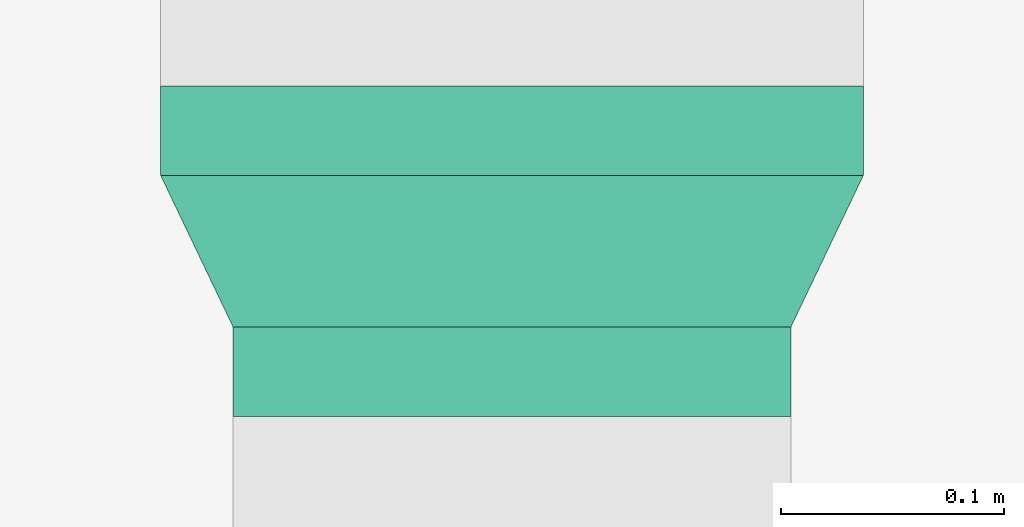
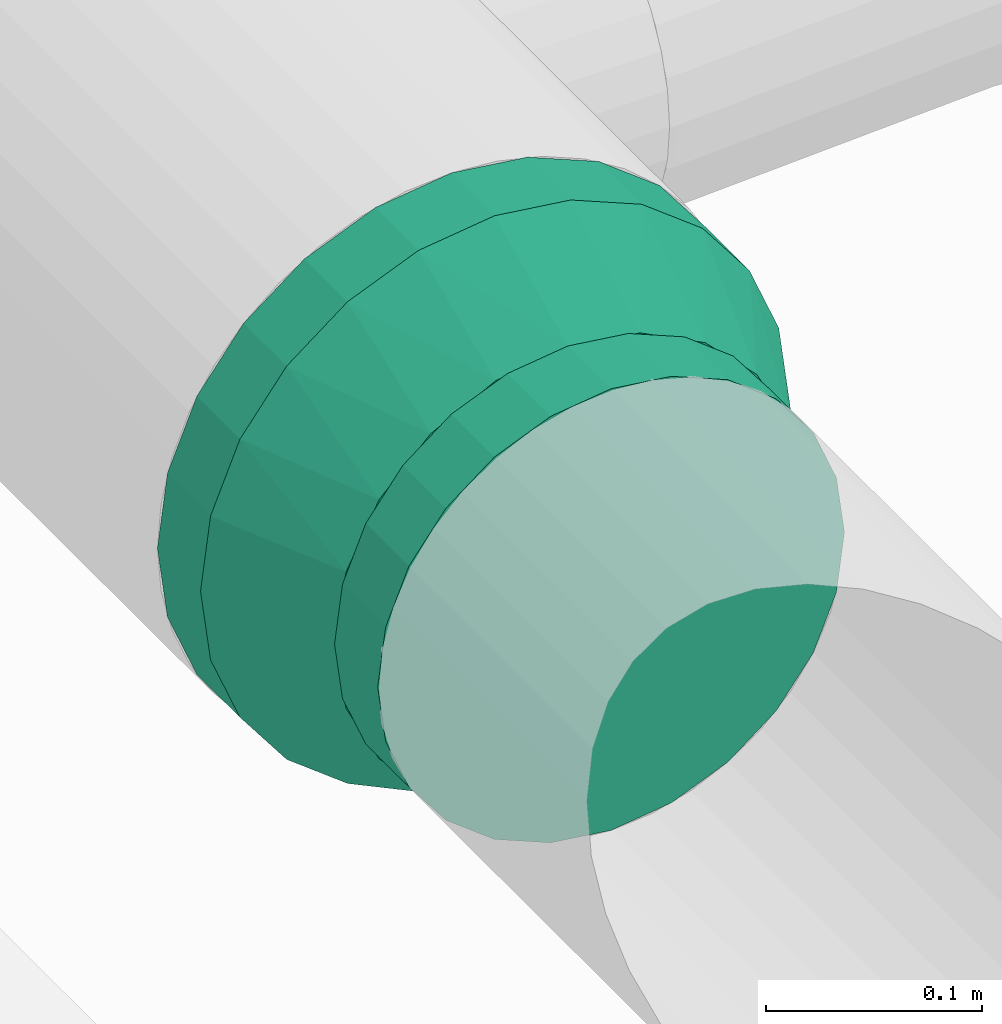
# One storey, part 19 of 31: 1 flow fitting.
"""IFC2X3 building model written with IfcOpenShell, lengths in millimetres."""

from ifc_helpers import new_model, entity, si_unit, converted_unit, derived_unit, direction, frame, origin, place, context, subcontext, project, spatial, faceted_brep, source, transform, mapped, material, material_list, type_object, type_shapes, element, save


model = new_model("IFC2X3")

# Units and contexts
model_context = context("Model", 3, precision=0.01, world=origin(), true_north=direction((6.123031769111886e-17, 1.0)))
body_context = subcontext(model_context, "Body", "Model", "MODEL_VIEW")
ifc_project = project(units=[si_unit("LENGTHUNIT", "METRE", prefix="MILLI"), si_unit("AREAUNIT", "SQUARE_METRE"), si_unit("VOLUMEUNIT", "CUBIC_METRE"), converted_unit("PLANEANGLEUNIT", "DEGREE", entity("IfcRatioMeasure", 0.017453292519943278), si_unit("PLANEANGLEUNIT", "RADIAN"), dimensions=[0, 0, 0, 0, 0, 0, 0]), si_unit("MASSUNIT", "GRAM", prefix="KILO"), derived_unit("MASSDENSITYUNIT", [(si_unit("MASSUNIT", "GRAM", prefix="KILO"), 1), (si_unit("LENGTHUNIT", "METRE"), -3)]), derived_unit("MOMENTOFINERTIAUNIT", [(si_unit("LENGTHUNIT", "METRE"), 4)]), si_unit("TIMEUNIT", "SECOND"), si_unit("FREQUENCYUNIT", "HERTZ"), si_unit("THERMODYNAMICTEMPERATUREUNIT", "DEGREE_CELSIUS"), derived_unit("THERMALTRANSMITTANCEUNIT", [(si_unit("MASSUNIT", "GRAM", prefix="KILO"), 1), (si_unit("THERMODYNAMICTEMPERATUREUNIT", "KELVIN"), -1), (si_unit("TIMEUNIT", "SECOND"), -3)]), derived_unit("VOLUMETRICFLOWRATEUNIT", [(si_unit("LENGTHUNIT", "METRE"), 3), (si_unit("TIMEUNIT", "SECOND"), -1)]), derived_unit("MASSFLOWRATEUNIT", [(si_unit("MASSUNIT", "GRAM", prefix="KILO"), 1), (si_unit("TIMEUNIT", "SECOND"), -1)]), derived_unit("ROTATIONALFREQUENCYUNIT", [(si_unit("TIMEUNIT", "SECOND"), -1)]), si_unit("ELECTRICCURRENTUNIT", "AMPERE"), si_unit("ELECTRICVOLTAGEUNIT", "VOLT"), si_unit("POWERUNIT", "WATT"), si_unit("FORCEUNIT", "NEWTON", prefix="KILO"), si_unit("ILLUMINANCEUNIT", "LUX"), si_unit("LUMINOUSFLUXUNIT", "LUMEN"), si_unit("LUMINOUSINTENSITYUNIT", "CANDELA"), derived_unit("USERDEFINED", [(si_unit("MASSUNIT", "GRAM", prefix="KILO"), -1), (si_unit("LENGTHUNIT", "METRE"), -2), (si_unit("TIMEUNIT", "SECOND"), 3), (si_unit("LUMINOUSFLUXUNIT", "LUMEN"), 1)]), derived_unit("SOUNDPOWERUNIT", [(si_unit("MASSUNIT", "GRAM", prefix="KILO"), 1), (si_unit("LENGTHUNIT", "METRE"), 2), (si_unit("TIMEUNIT", "SECOND"), -3)]), derived_unit("SOUNDPRESSUREUNIT", [(si_unit("MASSUNIT", "GRAM", prefix="KILO"), 1), (si_unit("LENGTHUNIT", "METRE"), -1), (si_unit("TIMEUNIT", "SECOND"), -2)]), derived_unit("LINEARVELOCITYUNIT", [(si_unit("LENGTHUNIT", "METRE"), 1), (si_unit("TIMEUNIT", "SECOND"), -1)]), si_unit("PRESSUREUNIT", "PASCAL"), derived_unit("USERDEFINED", [(si_unit("LENGTHUNIT", "METRE"), -2), (si_unit("MASSUNIT", "GRAM", prefix="KILO"), 1), (si_unit("TIMEUNIT", "SECOND"), -2)]), derived_unit("LINEARFORCEUNIT", [(si_unit("MASSUNIT", "GRAM", prefix="KILO"), 1), (si_unit("LENGTHUNIT", "METRE"), 1), (si_unit("TIMEUNIT", "SECOND"), -2), (si_unit("LENGTHUNIT", "METRE"), -1)]), derived_unit("PLANARFORCEUNIT", [(si_unit("MASSUNIT", "GRAM", prefix="KILO"), 1), (si_unit("LENGTHUNIT", "METRE"), 1), (si_unit("TIMEUNIT", "SECOND"), -2), (si_unit("LENGTHUNIT", "METRE"), -2)])], contexts=[model_context])

# Site, building, storey
site_placement = place(None, origin())
site = spatial("IfcSite", under=ifc_project, at=site_placement, Name="Default", CompositionType="ELEMENT")
building_placement = place(site_placement, origin())
building = spatial("IfcBuilding", under=site, at=building_placement, CompositionType="ELEMENT")
storey_placement = place(building_placement, frame((0.0, 0.0, 3880.0)))
storey = spatial("IfcBuildingStorey", under=building, at=storey_placement, Name="Niveau 1", CompositionType="ELEMENT", Elevation=3880.0)

# Flow fitting
ifc_material = material(Name="<Unnamed>")
ifc_material_list_1 = material_list([ifc_material, ifc_material, ifc_material])
ifc_material_list_2 = material_list([ifc_material, ifc_material, ifc_material])
duct_fitting_type = type_object("IfcDuctFittingType", Name="Circul - Std - Reduction conique - ALDES - STANDARD - (Ba) (1):Standard", PredefinedType="NOTDEFINED", material=ifc_material_list_2)
shared_shape = source(origin(), body_context, "Body", "Brep", [
    faceted_brep([(68.0, 32.352380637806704, 120.74072828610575), (68.0, 62.49999999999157, 108.25317547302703), (68.0, 88.38834764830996, 88.38834764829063), (68.0, 108.25317547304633, 62.4999999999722), (68.0, 120.740728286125, 32.35238063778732), (68.0, 125.0, 0.0), (68.0, 120.7407282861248, -32.352380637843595), (68.0, 108.25317547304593, -62.500000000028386), (68.0, 88.3883476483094, -88.3883476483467), (68.0, 62.49999999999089, -108.25317547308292), (68.0, 32.35238063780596, -120.74072828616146), (68.0, 0.0, -125.0), (68.0, -32.35238063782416, -120.74072828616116), (68.0, -62.50000000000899, -108.25317547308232), (68.0, -88.3883476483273, -88.38834764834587), (68.0, -108.25317547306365, -62.500000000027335), (68.0, -120.74072828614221, -32.35238063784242), (68.0, -125.0, 0.0), (68.0, -120.74072828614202, 32.352380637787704), (68.0, -108.25317547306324, 62.49999999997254), (68.0, -88.3883476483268, 88.38834764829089), (68.0, -62.50000000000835, 108.25317547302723), (68.0, -32.35238063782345, 120.74072828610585), (68.0, 0.0, 125.0), (108.0, 32.352380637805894, -120.74072828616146), (108.0, 62.49999999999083, -108.25317547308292), (108.0, 88.38834764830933, -88.3883476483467), (108.0, 108.25317547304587, -62.500000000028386), (108.0, 120.74072828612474, -32.352380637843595), (108.0, 125.0, 0.0), (108.0, 120.74072828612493, 32.35238063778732), (108.0, 108.25317547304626, 62.4999999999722), (108.0, 88.38834764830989, 88.38834764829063), (108.0, 62.4999999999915, 108.25317547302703), (108.0, 32.35238063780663, 120.74072828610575), (108.0, 0.0, 125.0), (108.0, -32.35238063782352, 120.74072828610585), (108.0, -62.50000000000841, 108.25317547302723), (108.0, -88.38834764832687, 88.38834764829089), (108.0, -108.25317547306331, 62.49999999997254), (108.0, -120.74072828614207, 32.352380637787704), (108.0, -125.0, 0.0), (108.0, -120.74072828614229, -32.35238063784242), (108.0, -108.25317547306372, -62.500000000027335), (108.0, -88.38834764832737, -88.38834764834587), (108.0, -62.50000000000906, -108.25317547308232), (108.0, -32.35238063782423, -120.74072828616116), (108.0, 0.0, -125.0)], [[[0, 1, 2, 3, 4, 5, 6, 7, 8, 9, 10, 11, 12, 13, 14, 15, 16, 17, 18, 19, 20, 21, 22, 23]], [[24, 25, 26, 27, 28, 29, 30, 31, 32, 33, 34, 35, 36, 37, 38, 39, 40, 41, 42, 43, 44, 45, 46, 47]], [[16, 42, 41, 17]], [[15, 43, 42, 16]], [[45, 44, 14, 13]], [[15, 14, 44, 43]], [[46, 45, 13, 12]], [[47, 46, 12, 11]], [[10, 24, 47, 11]], [[9, 25, 24, 10]], [[27, 26, 8, 7]], [[9, 8, 26, 25]], [[28, 27, 7, 6]], [[29, 28, 6, 5]], [[4, 30, 29, 5]], [[3, 31, 30, 4]], [[33, 32, 2, 1]], [[3, 2, 32, 31]], [[34, 33, 1, 0]], [[35, 34, 0, 23]], [[36, 35, 23, 22]], [[21, 37, 36, 22]], [[39, 19, 18, 40]], [[40, 18, 17, 41]], [[21, 20, 38, 37]], [[20, 19, 39, 38]]]),
    faceted_brep([(0.0, 0.0, -157.5000000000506), (0.0, 40.763999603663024, -152.13331764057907), (0.0, 78.75000000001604, -136.3990010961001), (0.0, 111.36931803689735, -111.36931803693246), (0.0, 136.39900109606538, -78.75000000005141), (0.0, 152.13331764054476, -40.76399960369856), (0.0, 157.50000000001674, 0.0), (0.0, 152.13331764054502, 40.76399960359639), (0.0, 136.39900109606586, 78.74999999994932), (0.0, 111.36931803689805, 111.36931803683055), (0.0, 78.75000000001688, 136.3990010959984), (0.0, 40.763999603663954, 152.1333176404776), (0.0, 0.0, 157.4999999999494), (0.0, -40.76399960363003, 152.1333176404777), (0.0, -78.74999999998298, 136.39900109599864), (0.0, -111.36931803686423, 111.36931803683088), (0.0, -136.39900109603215, 78.74999999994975), (0.0, -152.1333176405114, 40.76399960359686), (0.0, -157.49999999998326, 0.0), (0.0, -152.13331764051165, -40.76399960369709), (0.0, -136.39900109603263, -78.75000000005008), (0.0, -111.36931803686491, -111.36931803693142), (0.0, -78.74999999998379, -136.39900109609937), (0.0, -40.76399960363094, -152.1333176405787), (-40.0, 152.13331764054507, 40.76399960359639), (-40.0, 157.50000000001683, 0.0), (-40.0, 152.13331764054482, -40.76399960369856), (-40.0, 136.39900109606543, -78.75000000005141), (-40.0, 111.36931803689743, -111.36931803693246), (-40.0, 78.7500000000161, -136.3990010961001), (-40.0, 40.763999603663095, -152.13331764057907), (-40.0, 0.0, -157.5000000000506), (-40.0, -40.76399960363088, -152.1333176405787), (-40.0, -78.74999999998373, -136.39900109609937), (-40.0, -111.36931803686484, -111.36931803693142), (-40.0, -136.39900109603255, -78.75000000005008), (-40.0, -152.1333176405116, -40.76399960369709), (-40.0, -157.49999999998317, 0.0), (-40.0, -152.1333176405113, 40.76399960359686), (-40.0, -136.3990010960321, 78.74999999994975), (-40.0, -111.36931803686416, 111.36931803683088), (-40.0, -78.7499999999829, 136.39900109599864), (-40.0, -40.76399960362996, 152.1333176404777), (-40.0, 0.0, 157.4999999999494), (-40.0, 40.763999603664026, 152.1333176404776), (-40.0, 78.75000000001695, 136.3990010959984), (-40.0, 111.36931803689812, 111.36931803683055), (-40.0, 136.39900109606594, 78.74999999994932)], [[[0, 1, 2, 3, 4, 5, 6, 7, 8, 9, 10, 11, 12, 13, 14, 15, 16, 17, 18, 19, 20, 21, 22, 23]], [[24, 25, 26, 27, 28, 29, 30, 31, 32, 33, 34, 35, 36, 37, 38, 39, 40, 41, 42, 43, 44, 45, 46, 47]], [[36, 19, 18, 37]], [[35, 20, 19, 36]], [[22, 21, 34, 33]], [[35, 34, 21, 20]], [[23, 22, 33, 32]], [[0, 23, 32, 31]], [[30, 1, 0, 31]], [[29, 2, 1, 30]], [[4, 3, 28, 27]], [[29, 28, 3, 2]], [[5, 4, 27, 26]], [[6, 5, 26, 25]], [[24, 7, 6, 25]], [[47, 8, 7, 24]], [[10, 9, 46, 45]], [[47, 46, 9, 8]], [[11, 10, 45, 44]], [[12, 11, 44, 43]], [[13, 12, 43, 42]], [[16, 39, 38, 17]], [[39, 16, 15, 40]], [[17, 38, 37, 18]], [[42, 41, 14, 13]], [[14, 41, 40, 15]]]),
    faceted_brep([(68.0, -38.62712429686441, -118.88206453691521), (68.0, 0.0, -125.0), (68.0, 38.62712429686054, -118.88206453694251), (68.0, 73.4731565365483, -101.12712429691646), (68.0, 101.12712429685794, -73.47315653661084), (68.0, 118.88206453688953, -38.62712429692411), (68.0, 125.0, 0.0), (68.0, 118.88206453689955, 38.62712429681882), (68.0, 101.12712429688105, 73.47315653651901), (68.0, 73.47315653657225, 101.12712429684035), (68.0, 38.62712429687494, 118.88206453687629), (68.0, 0.0, 125.0), (68.0, -38.6271242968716, 118.8820645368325), (68.0, -73.47315653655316, 101.12712429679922), (68.0, -101.12712429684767, 73.47315653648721), (68.0, -118.88206453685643, 38.627124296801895), (68.0, -125.0, 0.0), (68.0, -118.88206453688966, -38.62712429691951), (68.0, -101.12712429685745, -73.47315653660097), (68.0, -73.47315653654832, -101.12712429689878), (0.0, -157.4999999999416, 0.0), (0.0, -152.1333176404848, 40.76399960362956), (0.0, -136.3990010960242, 78.74999999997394), (0.0, -111.36931803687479, 111.36931803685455), (0.0, -78.75000000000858, 136.39900109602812), (0.0, -40.763999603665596, 152.13331764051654), (0.0, 0.0, 157.50000000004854), (0.0, 40.76399960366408, 152.13331764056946), (0.0, 78.75000000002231, 136.399001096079), (0.0, 111.36931803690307, 111.36931803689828), (0.0, 136.3990010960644, 78.75000000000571), (0.0, 152.13331764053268, 40.76399960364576), (0.0, 157.50000000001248, 0.0), (0.0, 152.13331764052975, -40.76399960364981), (0.0, 136.3990010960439, -78.7499999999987), (0.0, 111.36931803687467, -111.36931803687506), (0.0, 78.7499999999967, -136.3990010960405), (0.0, 40.76399960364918, -152.1333176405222), (0.0, 0.0, -157.4999999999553), (0.0, -40.76399960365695, -152.1333176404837), (0.0, -78.74999999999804, -136.39900109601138), (0.0, -111.3693180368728, -111.36931803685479), (0.0, -136.39900109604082, -78.74999999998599), (0.0, -152.13331764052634, -40.76399960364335)], [[[0, 1, 2, 3, 4, 5, 6, 7, 8, 9, 10, 11, 12, 13, 14, 15, 16, 17, 18, 19]], [[20, 21, 22, 23, 24, 25, 26, 27, 28, 29, 30, 31, 32, 33, 34, 35, 36, 37, 38, 39, 40, 41, 42, 43]], [[10, 9, 28]], [[11, 10, 27]], [[11, 27, 26]], [[27, 10, 28]], [[9, 29, 28]], [[7, 6, 31]], [[8, 7, 30]], [[30, 29, 8]], [[32, 31, 6]], [[30, 7, 31]], [[8, 29, 9]], [[15, 14, 22]], [[16, 15, 21]], [[16, 21, 20]], [[21, 15, 22]], [[14, 23, 22]], [[12, 11, 25]], [[13, 12, 24]], [[24, 23, 13]], [[26, 25, 11]], [[24, 12, 25]], [[13, 23, 14]], [[0, 19, 40]], [[1, 0, 39]], [[1, 39, 38]], [[39, 0, 40]], [[19, 41, 40]], [[17, 16, 43]], [[18, 17, 42]], [[42, 41, 18]], [[20, 43, 16]], [[42, 17, 43]], [[18, 41, 19]], [[5, 4, 34]], [[6, 5, 33]], [[6, 33, 32]], [[33, 5, 34]], [[4, 35, 34]], [[2, 1, 37]], [[3, 2, 36]], [[36, 35, 3]], [[38, 37, 1]], [[36, 2, 37]], [[3, 35, 4]]]),
])
type_shapes(duct_fitting_type, [shared_shape])
flow_fitting_placement = place(storey_placement, frame((-2195.0, -19890.299028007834, 3150.0), z_axis=(0.0, 0.0, 1.0), x_axis=(0.0, -1.0, 0.0)))
element("IfcFlowFitting", 1, at=flow_fitting_placement, inside=storey, type_object=duct_fitting_type, material=ifc_material_list_1, Name="Circul - Std - Reduction conique - ALDES - STANDARD - (Ba) (1):Standard", ObjectType="Circul - Std - Reduction conique - ALDES - STANDARD - (Ba) (1):Standard", context=body_context, shape_type="MappedRepresentation", body=[
    mapped(shared_shape, transform((0.0, 0.0, 0.0), scale=1.0)),
])

save(model, "model.ifc")
